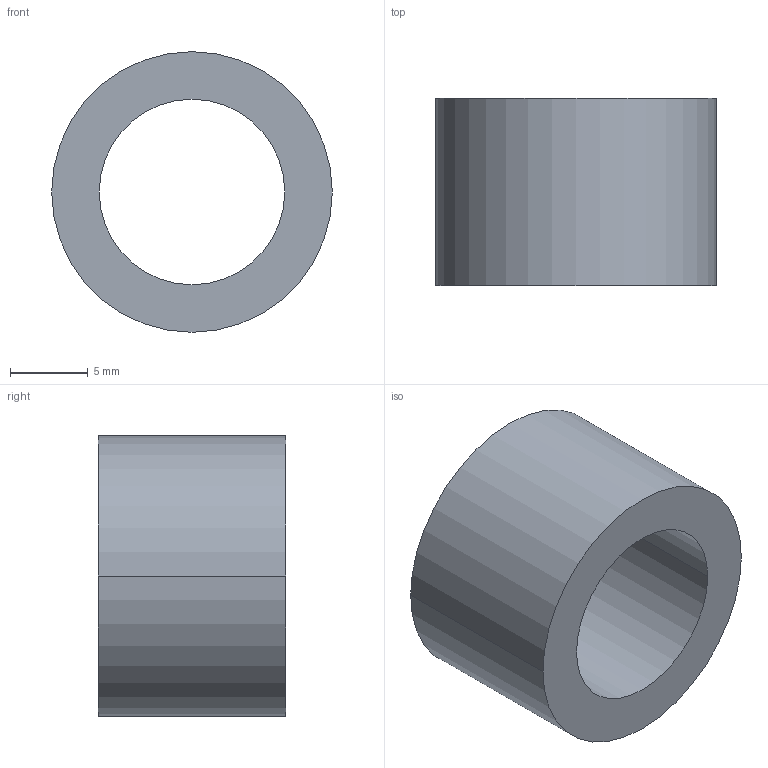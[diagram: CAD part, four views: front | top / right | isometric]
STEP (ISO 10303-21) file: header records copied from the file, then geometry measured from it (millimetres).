
FILE_DESCRIPTION (( 'STEP AP203' ), '1' );
FILE_NAME ('30800.WPP18E11.9.step', '2019-01-23T22:38:21', ( '' ), ( '' ), 'SwSTEP 2.0', 'SolidWorks 2017', '' );
FILE_SCHEMA (( 'CONFIG_CONTROL_DESIGN' ));
Length unit declared in the file: millimetre
Products named in the file (1): 30800.WPP18E11.9
Bounding box: 18 x 12 x 18 mm (x, y, z)
Volume: 1684.5 mm3; surface area: 1383.4 mm2
Topology: 1 solids, 1 shells, 8 faces, 16 edges, 10 vertices
Faces by surface type: cylinder 4, torus 2, plane 2
Entity records: 297 total; most frequent: DIRECTION 46, CARTESIAN_POINT 35, ORIENTED_EDGE 32, AXIS2_PLACEMENT_3D 21, EDGE_CURVE 16, CIRCLE 12, EDGE_LOOP 10, VERTEX_POINT 10
